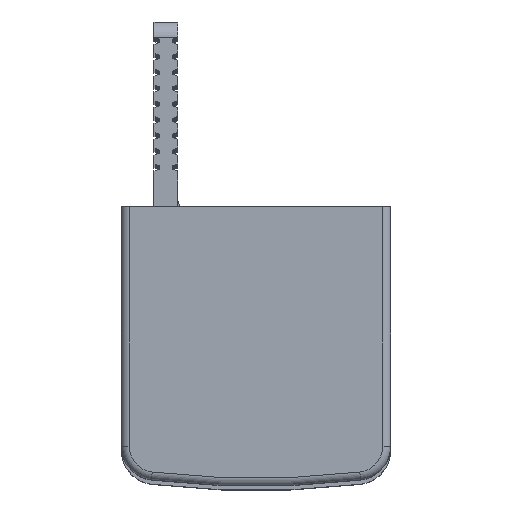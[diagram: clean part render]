
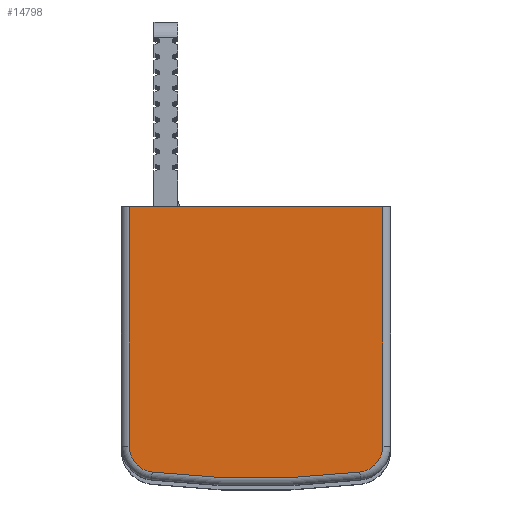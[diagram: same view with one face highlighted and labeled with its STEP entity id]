
A CAD part, top view. The second image highlights one B-rep face of the part: STEP entity #14798.
In plain terms, the highlighted planar face has unit normal (0, 0, 1).
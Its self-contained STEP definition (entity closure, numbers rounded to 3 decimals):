
#567 = ORIENTED_EDGE ( 'NONE', *, *, #15019, .T. ) ;
#1054 = VERTEX_POINT ( 'NONE', #33437 ) ;
#1298 = VECTOR ( 'NONE', #20609, 1000. ) ;
#1452 = PLANE ( 'NONE',  #34048 ) ;
#1904 = VERTEX_POINT ( 'NONE', #7518 ) ;
#2390 = VERTEX_POINT ( 'NONE', #26061 ) ;
#2730 = VECTOR ( 'NONE', #14567, 1000. ) ;
#3836 = CIRCLE ( 'NONE', #27569, 1.65 ) ;
#5507 = CARTESIAN_POINT ( 'NONE',  ( 78.075, 16.75, 501. ) ) ;
#5613 = CARTESIAN_POINT ( 'NONE',  ( 76.425, -6.136, 501. ) ) ;
#6061 = ORIENTED_EDGE ( 'NONE', *, *, #25265, .F. ) ;
#6402 = VERTEX_POINT ( 'NONE', #35527 ) ;
#7518 = CARTESIAN_POINT ( 'NONE',  ( 62.05, 9., 501. ) ) ;
#8526 = ORIENTED_EDGE ( 'NONE', *, *, #18339, .F. ) ;
#8950 = DIRECTION ( 'NONE',  ( 0., 0., -1. ) ) ;
#9984 = EDGE_CURVE ( 'NONE', #2390, #25487, #26280, .T. ) ;
#11729 = FACE_OUTER_BOUND ( 'NONE', #16592, .T. ) ;
#12436 = VERTEX_POINT ( 'NONE', #35340 ) ;
#14567 = DIRECTION ( 'NONE',  ( 0., -1., 0. ) ) ;
#14798 = ADVANCED_FACE ( 'NONE', ( #11729 ), #1452, .T. ) ;
#14849 = ORIENTED_EDGE ( 'NONE', *, *, #9984, .T. ) ;
#15019 = EDGE_CURVE ( 'NONE', #1904, #12436, #21264, .T. ) ;
#16577 = CARTESIAN_POINT ( 'NONE',  ( 62.75, 9., 501. ) ) ;
#16592 = EDGE_LOOP ( 'NONE', ( #8526, #567, #36451, #14849, #6061, #18998 ) ) ;
#17832 = DIRECTION ( 'NONE',  ( 1., 0., 0. ) ) ;
#18339 = EDGE_CURVE ( 'NONE', #1904, #1054, #36082, .T. ) ;
#18688 = CARTESIAN_POINT ( 'NONE',  ( 76.621, -7.774, 501. ) ) ;
#18998 = ORIENTED_EDGE ( 'NONE', *, *, #34840, .T. ) ;
#19368 = DIRECTION ( 'NONE',  ( 1., 0., 0. ) ) ;
#20609 = DIRECTION ( 'NONE',  ( 1., 0., 0. ) ) ;
#20799 = CARTESIAN_POINT ( 'NONE',  ( 70.063, 46.985, 501. ) ) ;
#20965 = CARTESIAN_POINT ( 'NONE',  ( 62.05, 16.75, 501. ) ) ;
#21058 = AXIS2_PLACEMENT_3D ( 'NONE', #38704, #25872, #35364 ) ;
#21070 = DIRECTION ( 'NONE',  ( 1., 0., 0. ) ) ;
#21264 = LINE ( 'NONE', #20965, #2730 ) ;
#22359 = CIRCLE ( 'NONE', #21058, 1.65 ) ;
#25265 = EDGE_CURVE ( 'NONE', #6402, #25487, #3836, .T. ) ;
#25487 = VERTEX_POINT ( 'NONE', #18688 ) ;
#25872 = DIRECTION ( 'NONE',  ( 0., 0., -1. ) ) ;
#26061 = CARTESIAN_POINT ( 'NONE',  ( 63.504, -7.774, 501. ) ) ;
#26280 = CIRCLE ( 'NONE', #38284, 55.151 ) ;
#27569 = AXIS2_PLACEMENT_3D ( 'NONE', #5613, #8950, #17832 ) ;
#29980 = LINE ( 'NONE', #5507, #39066 ) ;
#31395 = CARTESIAN_POINT ( 'NONE',  ( 67.175, 16.75, 501. ) ) ;
#31918 = DIRECTION ( 'NONE',  ( 0., 0., 1. ) ) ;
#33437 = CARTESIAN_POINT ( 'NONE',  ( 78.075, 9., 501. ) ) ;
#33470 = DIRECTION ( 'NONE',  ( 0., 1., 0. ) ) ;
#34048 = AXIS2_PLACEMENT_3D ( 'NONE', #31395, #31918, #19368 ) ;
#34840 = EDGE_CURVE ( 'NONE', #6402, #1054, #29980, .T. ) ;
#35340 = CARTESIAN_POINT ( 'NONE',  ( 62.05, -6.136, 501. ) ) ;
#35364 = DIRECTION ( 'NONE',  ( 1., 0., 0. ) ) ;
#35527 = CARTESIAN_POINT ( 'NONE',  ( 78.075, -6.136, 501. ) ) ;
#36082 = LINE ( 'NONE', #16577, #1298 ) ;
#36416 = DIRECTION ( 'NONE',  ( 0., 0., 1. ) ) ;
#36451 = ORIENTED_EDGE ( 'NONE', *, *, #38310, .F. ) ;
#38284 = AXIS2_PLACEMENT_3D ( 'NONE', #20799, #36416, #21070 ) ;
#38310 = EDGE_CURVE ( 'NONE', #2390, #12436, #22359, .T. ) ;
#38704 = CARTESIAN_POINT ( 'NONE',  ( 63.7, -6.136, 501. ) ) ;
#39066 = VECTOR ( 'NONE', #33470, 1000. ) ;
